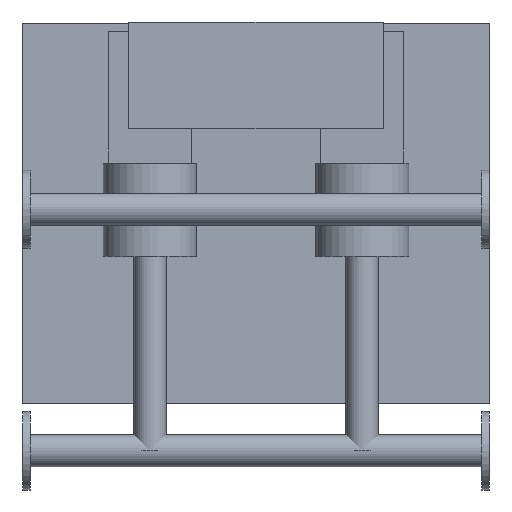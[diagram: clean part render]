
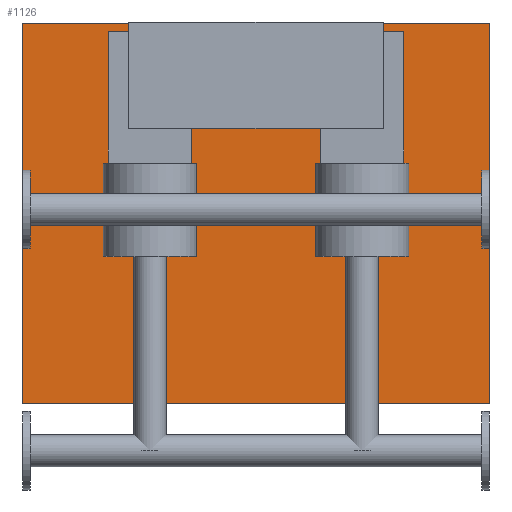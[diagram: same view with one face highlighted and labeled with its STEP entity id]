
A CAD part, top view. The second image highlights one B-rep face of the part: STEP entity #1126.
In plain terms, the highlighted planar face has unit normal (0, 0, 1).
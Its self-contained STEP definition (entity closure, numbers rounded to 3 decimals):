
#812 = VERTEX_POINT('',#813);
#813 = CARTESIAN_POINT('',(0.,205.,120.));
#820 = PLANE('',#821);
#821 = AXIS2_PLACEMENT_3D('',#822,#823,#824);
#822 = CARTESIAN_POINT('',(0.,205.,0.));
#823 = DIRECTION('',(1.,0.,0.));
#824 = DIRECTION('',(0.,0.,1.));
#832 = PLANE('',#833);
#833 = AXIS2_PLACEMENT_3D('',#834,#835,#836);
#834 = CARTESIAN_POINT('',(0.,205.,0.));
#835 = DIRECTION('',(0.,1.,0.));
#836 = DIRECTION('',(0.,0.,1.));
#873 = VERTEX_POINT('',#874);
#874 = CARTESIAN_POINT('',(0.,1100.,120.));
#888 = PLANE('',#889);
#889 = AXIS2_PLACEMENT_3D('',#890,#891,#892);
#890 = CARTESIAN_POINT('',(0.,1100.,0.));
#891 = DIRECTION('',(0.,1.,0.));
#892 = DIRECTION('',(0.,0.,1.));
#900 = EDGE_CURVE('',#812,#873,#901,.T.);
#901 = SURFACE_CURVE('',#902,(#906,#913),.PCURVE_S1.);
#902 = LINE('',#903,#904);
#903 = CARTESIAN_POINT('',(0.,205.,120.));
#904 = VECTOR('',#905,1.);
#905 = DIRECTION('',(0.,1.,0.));
#906 = PCURVE('',#820,#907);
#907 = DEFINITIONAL_REPRESENTATION('',(#908),#912);
#908 = LINE('',#909,#910);
#909 = CARTESIAN_POINT('',(120.,0.));
#910 = VECTOR('',#911,1.);
#911 = DIRECTION('',(0.,-1.));
#912 = ( GEOMETRIC_REPRESENTATION_CONTEXT(2) 
PARAMETRIC_REPRESENTATION_CONTEXT() REPRESENTATION_CONTEXT('2D SPACE',''
  ) );
#913 = PCURVE('',#914,#919);
#914 = PLANE('',#915);
#915 = AXIS2_PLACEMENT_3D('',#916,#917,#918);
#916 = CARTESIAN_POINT('',(0.,205.,120.));
#917 = DIRECTION('',(0.,0.,1.));
#918 = DIRECTION('',(1.,0.,0.));
#919 = DEFINITIONAL_REPRESENTATION('',(#920),#924);
#920 = LINE('',#921,#922);
#921 = CARTESIAN_POINT('',(0.,0.));
#922 = VECTOR('',#923,1.);
#923 = DIRECTION('',(0.,1.));
#924 = ( GEOMETRIC_REPRESENTATION_CONTEXT(2) 
PARAMETRIC_REPRESENTATION_CONTEXT() REPRESENTATION_CONTEXT('2D SPACE',''
  ) );
#932 = VERTEX_POINT('',#933);
#933 = CARTESIAN_POINT('',(1100.,205.,120.));
#940 = PLANE('',#941);
#941 = AXIS2_PLACEMENT_3D('',#942,#943,#944);
#942 = CARTESIAN_POINT('',(1100.,205.,0.));
#943 = DIRECTION('',(1.,0.,0.));
#944 = DIRECTION('',(0.,0.,1.));
#983 = VERTEX_POINT('',#984);
#984 = CARTESIAN_POINT('',(1100.,1100.,120.));
#1005 = EDGE_CURVE('',#932,#983,#1006,.T.);
#1006 = SURFACE_CURVE('',#1007,(#1011,#1018),.PCURVE_S1.);
#1007 = LINE('',#1008,#1009);
#1008 = CARTESIAN_POINT('',(1100.,205.,120.));
#1009 = VECTOR('',#1010,1.);
#1010 = DIRECTION('',(0.,1.,0.));
#1011 = PCURVE('',#940,#1012);
#1012 = DEFINITIONAL_REPRESENTATION('',(#1013),#1017);
#1013 = LINE('',#1014,#1015);
#1014 = CARTESIAN_POINT('',(120.,0.));
#1015 = VECTOR('',#1016,1.);
#1016 = DIRECTION('',(0.,-1.));
#1017 = ( GEOMETRIC_REPRESENTATION_CONTEXT(2) 
PARAMETRIC_REPRESENTATION_CONTEXT() REPRESENTATION_CONTEXT('2D SPACE',''
  ) );
#1018 = PCURVE('',#914,#1019);
#1019 = DEFINITIONAL_REPRESENTATION('',(#1020),#1024);
#1020 = LINE('',#1021,#1022);
#1021 = CARTESIAN_POINT('',(1100.,0.));
#1022 = VECTOR('',#1023,1.);
#1023 = DIRECTION('',(0.,1.));
#1024 = ( GEOMETRIC_REPRESENTATION_CONTEXT(2) 
PARAMETRIC_REPRESENTATION_CONTEXT() REPRESENTATION_CONTEXT('2D SPACE',''
  ) );
#1051 = EDGE_CURVE('',#812,#932,#1052,.T.);
#1052 = SURFACE_CURVE('',#1053,(#1057,#1064),.PCURVE_S1.);
#1053 = LINE('',#1054,#1055);
#1054 = CARTESIAN_POINT('',(0.,205.,120.));
#1055 = VECTOR('',#1056,1.);
#1056 = DIRECTION('',(1.,0.,0.));
#1057 = PCURVE('',#832,#1058);
#1058 = DEFINITIONAL_REPRESENTATION('',(#1059),#1063);
#1059 = LINE('',#1060,#1061);
#1060 = CARTESIAN_POINT('',(120.,0.));
#1061 = VECTOR('',#1062,1.);
#1062 = DIRECTION('',(0.,1.));
#1063 = ( GEOMETRIC_REPRESENTATION_CONTEXT(2) 
PARAMETRIC_REPRESENTATION_CONTEXT() REPRESENTATION_CONTEXT('2D SPACE',''
  ) );
#1064 = PCURVE('',#914,#1065);
#1065 = DEFINITIONAL_REPRESENTATION('',(#1066),#1070);
#1066 = LINE('',#1067,#1068);
#1067 = CARTESIAN_POINT('',(0.,0.));
#1068 = VECTOR('',#1069,1.);
#1069 = DIRECTION('',(1.,0.));
#1070 = ( GEOMETRIC_REPRESENTATION_CONTEXT(2) 
PARAMETRIC_REPRESENTATION_CONTEXT() REPRESENTATION_CONTEXT('2D SPACE',''
  ) );
#1098 = EDGE_CURVE('',#873,#983,#1099,.T.);
#1099 = SURFACE_CURVE('',#1100,(#1104,#1111),.PCURVE_S1.);
#1100 = LINE('',#1101,#1102);
#1101 = CARTESIAN_POINT('',(0.,1100.,120.));
#1102 = VECTOR('',#1103,1.);
#1103 = DIRECTION('',(1.,0.,0.));
#1104 = PCURVE('',#888,#1105);
#1105 = DEFINITIONAL_REPRESENTATION('',(#1106),#1110);
#1106 = LINE('',#1107,#1108);
#1107 = CARTESIAN_POINT('',(120.,0.));
#1108 = VECTOR('',#1109,1.);
#1109 = DIRECTION('',(0.,1.));
#1110 = ( GEOMETRIC_REPRESENTATION_CONTEXT(2) 
PARAMETRIC_REPRESENTATION_CONTEXT() REPRESENTATION_CONTEXT('2D SPACE',''
  ) );
#1111 = PCURVE('',#914,#1112);
#1112 = DEFINITIONAL_REPRESENTATION('',(#1113),#1117);
#1113 = LINE('',#1114,#1115);
#1114 = CARTESIAN_POINT('',(0.,895.));
#1115 = VECTOR('',#1116,1.);
#1116 = DIRECTION('',(1.,0.));
#1117 = ( GEOMETRIC_REPRESENTATION_CONTEXT(2) 
PARAMETRIC_REPRESENTATION_CONTEXT() REPRESENTATION_CONTEXT('2D SPACE',''
  ) );
#1126 = ADVANCED_FACE('',(#1127),#914,.T.);
#1127 = FACE_BOUND('',#1128,.T.);
#1128 = EDGE_LOOP('',(#1129,#1130,#1131,#1132));
#1129 = ORIENTED_EDGE('',*,*,#900,.F.);
#1130 = ORIENTED_EDGE('',*,*,#1051,.T.);
#1131 = ORIENTED_EDGE('',*,*,#1005,.T.);
#1132 = ORIENTED_EDGE('',*,*,#1098,.F.);
